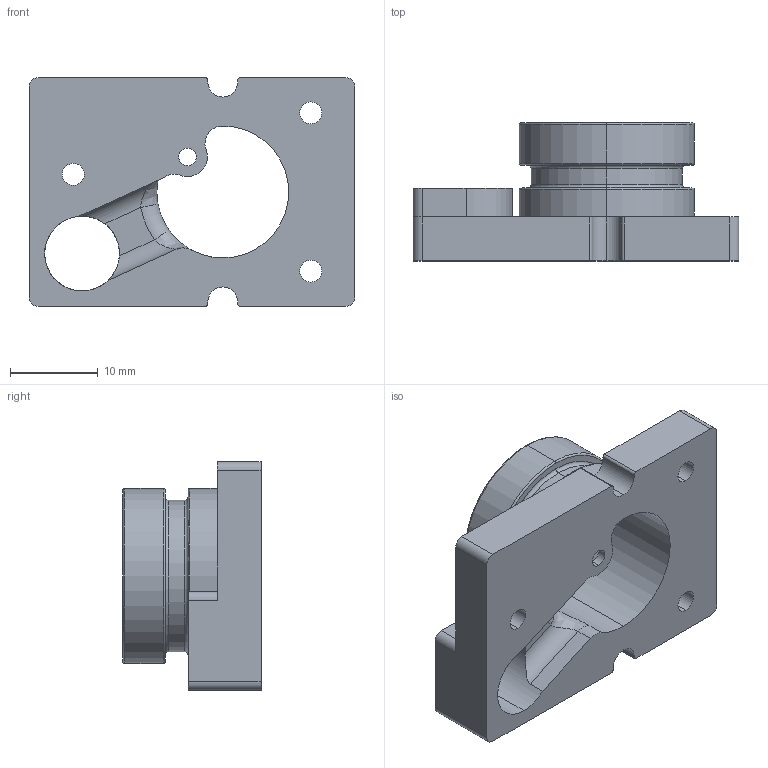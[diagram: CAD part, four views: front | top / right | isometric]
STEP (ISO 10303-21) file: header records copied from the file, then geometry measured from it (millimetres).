
FILE_DESCRIPTION (( 'STEP AP203' ), '1' );
FILE_NAME ('Êîðïóñ êîíöåâèêà V4.1.STEP', '2024-09-23T17:30:27', ( '' ), ( '' ), 'SwSTEP 2.0', 'SolidWorks 2019', '' );
FILE_SCHEMA (( 'CONFIG_CONTROL_DESIGN' ));
Length unit declared in the file: millimetre
Products named in the file (1): Êîðïóñ êîíöåâèêà V4.1
Bounding box: 37 x 15.7 x 26 mm (x, y, z)
Volume: 4379.8 mm3; surface area: 4098.3 mm2
Topology: 1 solids, 1 shells, 82 faces, 209 edges, 134 vertices
Faces by surface type: cylinder 46, plane 21, torus 11, cone 2, bspline 2
Entity records: 2806 total; most frequent: CARTESIAN_POINT 631, DIRECTION 481, ORIENTED_EDGE 418, EDGE_CURVE 209, AXIS2_PLACEMENT_3D 198, VERTEX_POINT 134, CIRCLE 117, EDGE_LOOP 99
